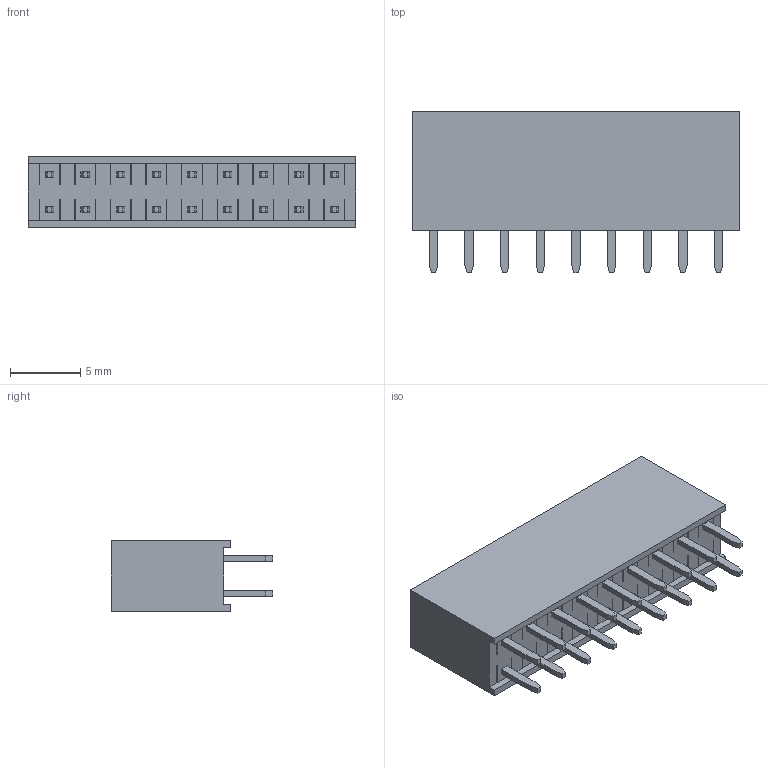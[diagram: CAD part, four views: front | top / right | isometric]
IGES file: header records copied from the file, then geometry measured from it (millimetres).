
Start section:  PTC IGES file: zl262-18d_p2-54_l23-36_w5_h8-5.igs
Global section: file name: zl262-18d_p2-54_l23-36_w5_h8-5.igs; native system: Pro/ENGINEER by Parametric Technology Corporation; preprocessor: 2004440; author: Dragos; organization: Unknown; date: 190116.172436; units: millimetre
Bounding box: 23.36 x 11.5 x 5 mm (x, y, z)
Volume: 871.1 mm3; surface area: 2019.8 mm2
Topology: 1 solids, 1 shells, 532 faces, 1356 edges, 880 vertices
Faces by surface type: bspline 532
